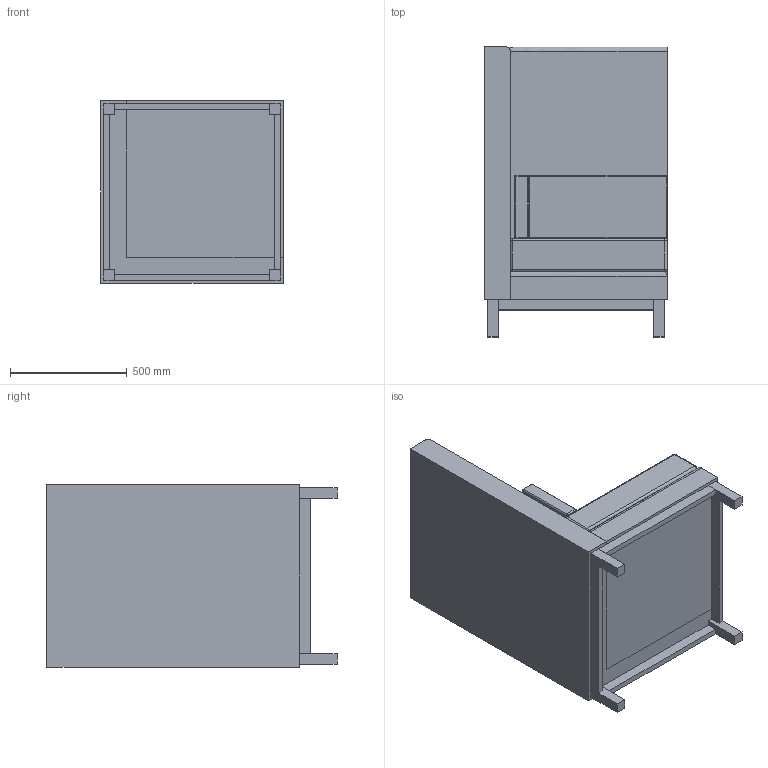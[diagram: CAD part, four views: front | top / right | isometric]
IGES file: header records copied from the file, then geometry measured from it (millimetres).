
Start section: SolidWorks IGES file using analytic representation for surfaces
Global section: file name: P:\3D CAD BLOCKS\ARTHUR CITYSCAPE\HB Plain Corner\IGS\ART-HB-PLAIN-ART-CITY-CORNER.IGS; native system: SolidWorks 2012; preprocessor: SolidWorks 2012; author: tom; date: 160523.091547; units: millimetre
Bounding box: 780 x 1240 x 780 mm (x, y, z)
Surface area: 7508136.5 mm2 (no closed solid volume)
Topology: 0 solids, 0 shells, 144 faces, 652 edges, 646 vertices
Faces by surface type: bspline 80, revolution 64
